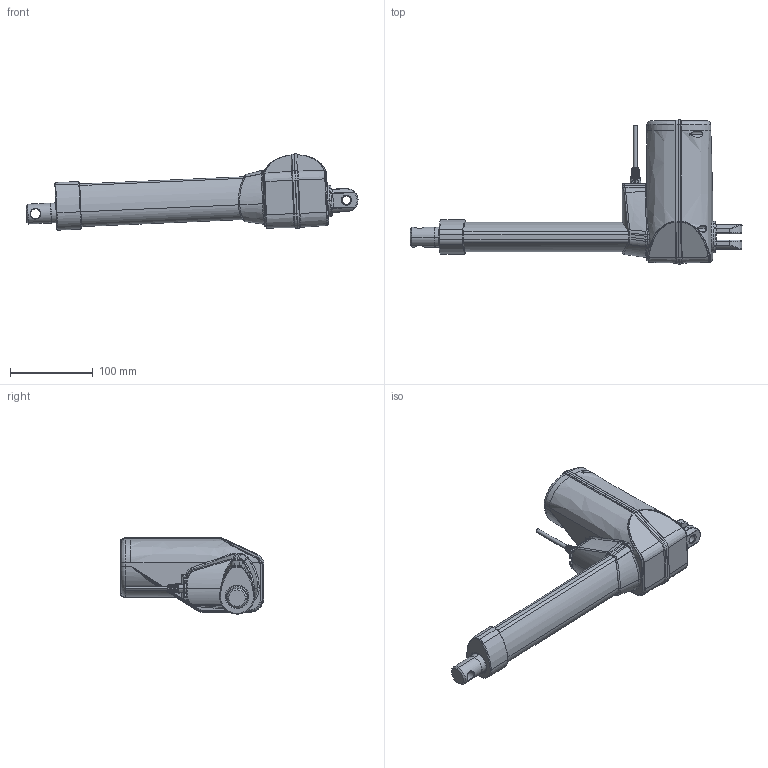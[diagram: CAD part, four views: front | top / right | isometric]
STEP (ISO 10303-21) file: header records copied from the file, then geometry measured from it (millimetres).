
FILE_DESCRIPTION((''),'2;1');
FILE_NAME('ASM0004_ASM','2022-05-24T',('USER'),(''),'PRO/ENGINEER BY PARAMETRIC TECHNOLOGY CORPORATION, 2008090','PRO/ENGINEER BY PARAMETRIC TECHNOLOGY CORPORATION, 2008090','');
FILE_SCHEMA(('CONFIG_CONTROL_DESIGN'));
Length unit declared in the file: millimetre
Products named in the file (3): PRT0008; PRT0009; ASM0004_ASM
Assembly tree (2 placements, depth 2):
  ASM0004_ASM
    PRT0008
    PRT0009
Bounding box: 401.15 x 173.9 x 92.16 mm (x, y, z)
Volume: 151997.7 mm3; surface area: 312517.2 mm2
Topology: 4 solids, 11 shells, 2210 faces, 6193 edges, 3952 vertices
Faces by surface type: cylinder 849, plane 746, bspline 268, torus 175, cone 121, sphere 33, extrusion 16, revolution 2
Entity records: 98288 total; most frequent: CARTESIAN_POINT 42686, ORIENTED_EDGE 12299, DIRECTION 11081, EDGE_CURVE 6159, AXIS2_PLACEMENT_3D 4232, VERTEX_POINT 3952, VECTOR 2615, LINE 2599
